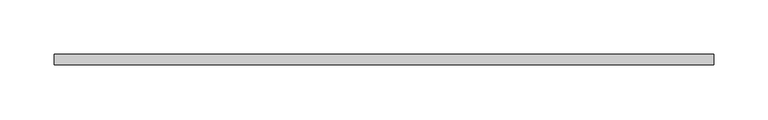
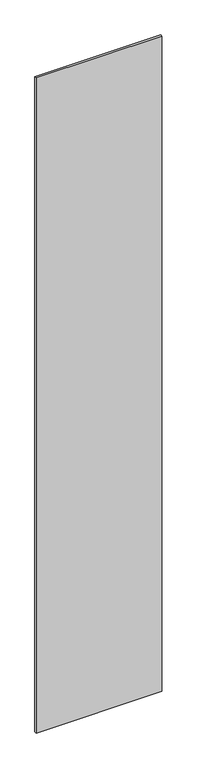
"""IFC4 building model written with IfcOpenShell, lengths in millimetres: plate geometry, システム パネル : 標準."""

from ifc_helpers import new_model, si_unit, origin, origin_with_axes, place, context, project, spatial, polyline, outline, extrude, source, transform, mapped, element, save


def plate_46c09de8(model_context):
    return source(origin(), model_context, "Body", "SweptSolid", [
        extrude(outline(polyline([(305.0, -5.0), (-305.0, -5.0), (-305.0, 5.0), (305.0, 5.0), (305.0, -5.0)])), origin_with_axes(), (0.0, 0.0, 1.0), 3360.0),
    ])


if __name__ == "__main__":
    model = new_model("IFC4")
    model_context = context("Model", 3, world=origin())
    ifc_project = project(units=[si_unit("LENGTHUNIT", "METRE", prefix="MILLI")], contexts=[model_context])
    site = spatial("IfcSite", under=ifc_project)
    building = spatial("IfcBuilding", under=site)
    placement = place(None, origin())
    plate_shape = plate_46c09de8(model_context)
    element("IfcPlate", 1, ObjectType="システム パネル : 標準", at=placement, inside=building, context=model_context, shape_type="MappedRepresentation", body=[
        mapped(plate_shape, transform((0.0, 0.0, 0.0), x_axis=(1.0, 0.0, 0.0), y_axis=(0.0, 1.0, 0.0), z_axis=(0.0, 0.0, 1.0))),
    ])
    save(model, "model.ifc")
